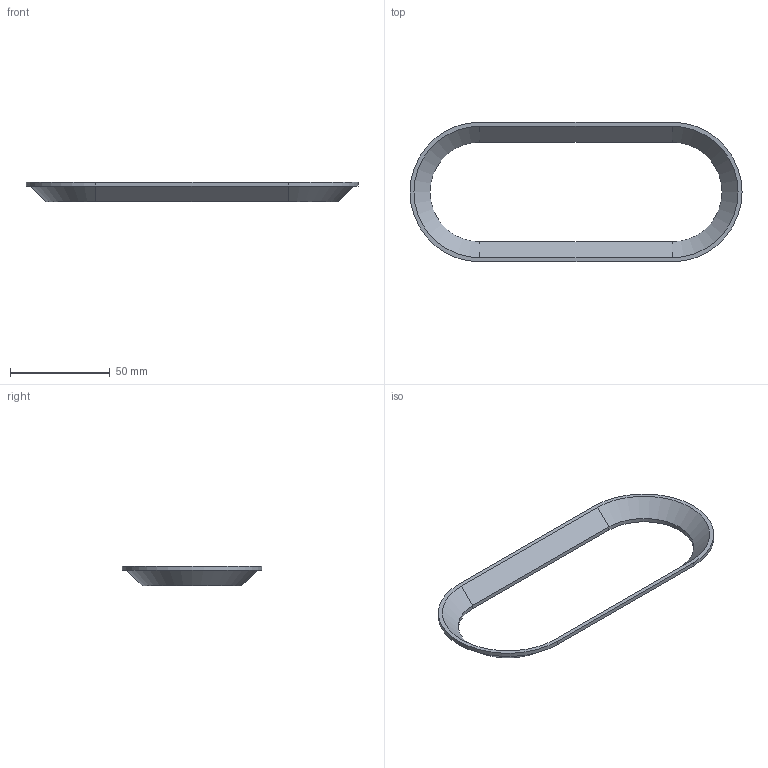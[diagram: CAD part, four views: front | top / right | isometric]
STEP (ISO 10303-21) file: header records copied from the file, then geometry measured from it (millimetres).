
FILE_DESCRIPTION(/* description */ (''),/* implementation_level */ '2;1');
FILE_NAME(/* name */ 'Frame.step',/* time_stamp */ '2023-07-06T13:19:13+02:00',/* author */ (''),/* organization */ (''),/* preprocessor_version */ 'ST-DEVELOPER v19.2',/* originating_system */ 'Autodesk Translation Framework v12.6.0.85',/* authorisation */ '');
FILE_SCHEMA (('AUTOMOTIVE_DESIGN { 1 0 10303 214 3 1 1 }'));
Length unit declared in the file: millimetre
Products named in the file (1): (Unsaved)
Bounding box: 166.5 x 70 x 10 mm (x, y, z)
Volume: 7629.9 mm3; surface area: 11642.6 mm2
Topology: 1 solids, 1 shells, 18 faces, 40 edges, 24 vertices
Faces by surface type: plane 10, cone 4, cylinder 4
Entity records: 571 total; most frequent: DIRECTION 90, CARTESIAN_POINT 83, ORIENTED_EDGE 80, EDGE_CURVE 40, AXIS2_PLACEMENT_3D 31, LINE 28, VECTOR 28, VERTEX_POINT 24
